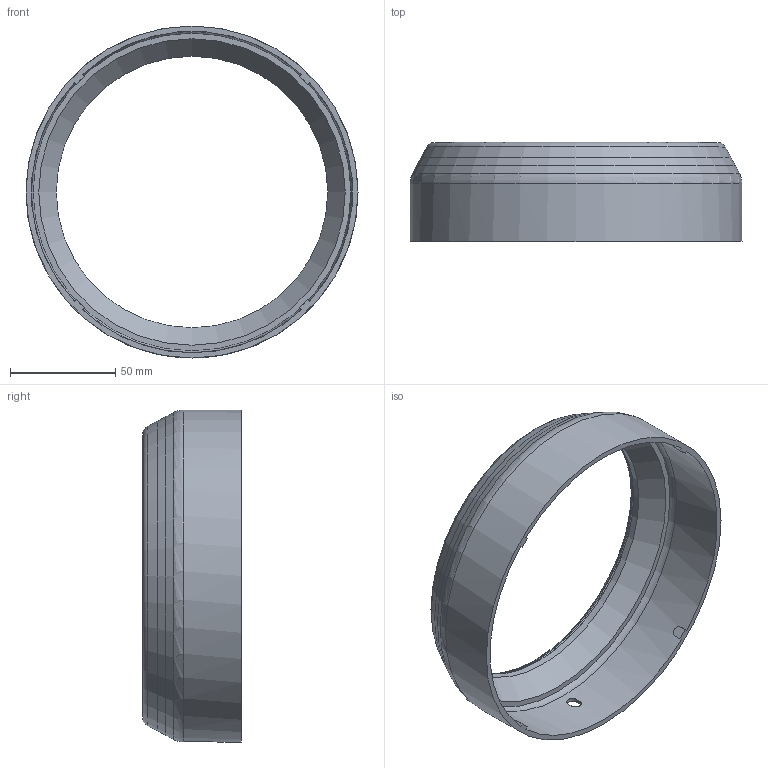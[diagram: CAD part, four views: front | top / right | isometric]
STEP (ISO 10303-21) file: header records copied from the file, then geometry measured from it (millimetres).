
FILE_DESCRIPTION(/* description */ ('','CAx-IF Rec.Pracs.---Representation and Presentation of Product Manufacturing Information (PMI)---4.0---2014-10-13'),/* implementation_level */ '2;1');
FILE_NAME(/* name */ 'MT-01-X-Ring_no-suppor_lightt.stp',/* time_stamp */ '2025-04-07T13:29:38+02:00',/* author */ ('CDA'),/* organization */ (''),/* preprocessor_version */ 'ST-DEVELOPER v20',/* originating_system */ 'Autodesk Inventor 2024',/* authorisation */ '');
FILE_SCHEMA (('AP242_MANAGED_MODEL_BASED_3D_ENGINEERING_MIM_LF { 1 0 10303 442 1 1 4 }'));
Length unit declared in the file: millimetre
Products named in the file (1): MT-01-X-Ring_no-suppor_lightt
Bounding box: 158 x 47 x 158 mm (x, y, z)
Volume: 78097 mm3; surface area: 75216.8 mm2
Topology: 4 solids, 4 shells, 69 faces, 174 edges, 111 vertices
Faces by surface type: plane 22, cone 14, cylinder 14, bspline 12, torus 7
Full cylindrical faces by diameter (mm): 129.194 x1, 130 x1, 153 x1, 158 x1
Entity records: 7035 total; most frequent: CARTESIAN_POINT 5307, ORIENTED_EDGE 348, DIRECTION 345, EDGE_CURVE 174, AXIS2_PLACEMENT_3D 138, VERTEX_POINT 111, EDGE_LOOP 77, CIRCLE 76
